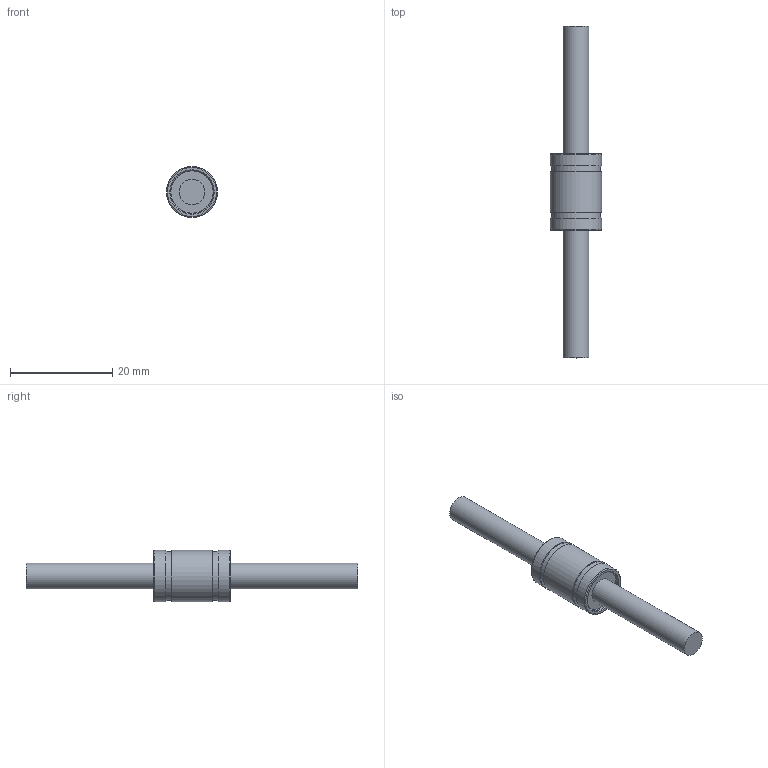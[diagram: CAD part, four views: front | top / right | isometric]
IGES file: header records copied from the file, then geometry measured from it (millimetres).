
Global section: file name: No Iges File Name specified; native system: Autodesk Inventor 2012; preprocessor: AutoDesk Inventor Iges Exporter R2012; author: user2; date: 20130206.095847; units: millimetre
Bounding box: 10 x 65 x 10 mm (x, y, z)
Volume: 2103.3 mm3; surface area: 1474.3 mm2
Topology: 1 solids, 1 shells, 23 faces, 37 edges, 24 vertices
Faces by surface type: plane 10, cylinder 7, revolution 4, torus 2
Full cylindrical faces by diameter (mm): 5 x2, 9.6 x2, 10 x3
